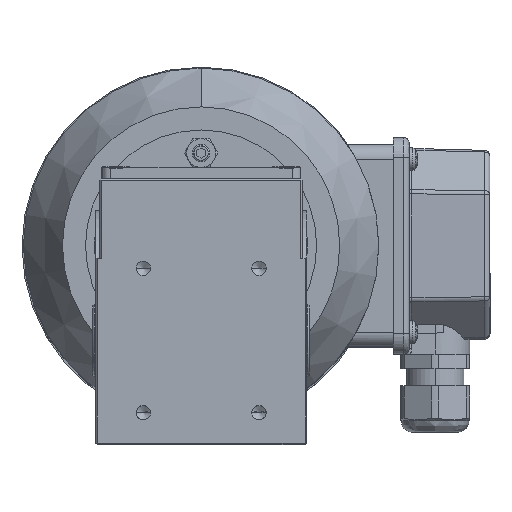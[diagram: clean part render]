
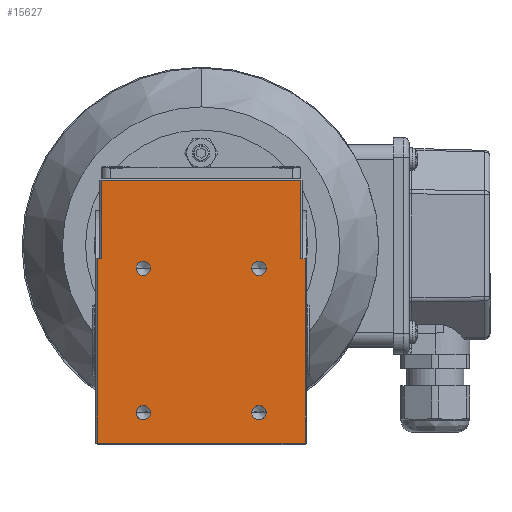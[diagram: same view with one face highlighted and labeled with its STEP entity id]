
A CAD part, top view. The second image highlights one B-rep face of the part: STEP entity #15627.
In plain terms, the highlighted planar face has unit normal (0, 0, 1).
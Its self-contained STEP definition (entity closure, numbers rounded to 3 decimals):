
#230 = DIRECTION ( 'NONE',  ( 0., 0., 1. ) ) ;
#274 = DIRECTION ( 'NONE',  ( 0., 1., 0. ) ) ;
#510 = ORIENTED_EDGE ( 'NONE', *, *, #23165, .T. ) ;
#694 = AXIS2_PLACEMENT_3D ( 'NONE', #23836, #18051, #274 ) ;
#698 = AXIS2_PLACEMENT_3D ( 'NONE', #6269, #1959, #17813 ) ;
#971 = DIRECTION ( 'NONE',  ( 1., 0., 0. ) ) ;
#1019 = EDGE_CURVE ( 'NONE', #3367, #23843, #24977, .T. ) ;
#1044 = CIRCLE ( 'NONE', #8932, 2.5 ) ;
#1171 = VECTOR ( 'NONE', #4159, 1000. ) ;
#1227 = ORIENTED_EDGE ( 'NONE', *, *, #1019, .F. ) ;
#1465 = EDGE_CURVE ( 'NONE', #19352, #5744, #19471, .T. ) ;
#1561 = EDGE_CURVE ( 'NONE', #12168, #13659, #13695, .T. ) ;
#1615 = LINE ( 'NONE', #7236, #21730 ) ;
#1751 = CIRCLE ( 'NONE', #22955, 2.5 ) ;
#1838 = ORIENTED_EDGE ( 'NONE', *, *, #21983, .T. ) ;
#1846 = EDGE_CURVE ( 'NONE', #15191, #17708, #10520, .T. ) ;
#1959 = DIRECTION ( 'NONE',  ( 0., 0., 1. ) ) ;
#2022 = EDGE_LOOP ( 'NONE', ( #14682, #3165, #1838, #6788, #14821, #510, #2553, #18091 ) ) ;
#2199 = DIRECTION ( 'NONE',  ( 0., 0., 1. ) ) ;
#2553 = ORIENTED_EDGE ( 'NONE', *, *, #7860, .T. ) ;
#2803 = ORIENTED_EDGE ( 'NONE', *, *, #1561, .F. ) ;
#2844 = CARTESIAN_POINT ( 'NONE',  ( 36., 56., 35. ) ) ;
#2969 = ORIENTED_EDGE ( 'NONE', *, *, #21768, .F. ) ;
#3119 = DIRECTION ( 'NONE',  ( 1., 0., 0. ) ) ;
#3165 = ORIENTED_EDGE ( 'NONE', *, *, #10866, .T. ) ;
#3367 = VERTEX_POINT ( 'NONE', #4068 ) ;
#3696 = DIRECTION ( 'NONE',  ( -1., 0., 0. ) ) ;
#4068 = CARTESIAN_POINT ( 'NONE',  ( 17.5, 25., 35. ) ) ;
#4159 = DIRECTION ( 'NONE',  ( 0., -1., 0. ) ) ;
#4325 = AXIS2_PLACEMENT_3D ( 'NONE', #21234, #23745, #5508 ) ;
#4364 = DIRECTION ( 'NONE',  ( 0., 0., 1. ) ) ;
#4444 = VERTEX_POINT ( 'NONE', #8299 ) ;
#4730 = EDGE_CURVE ( 'NONE', #14848, #21208, #1615, .T. ) ;
#4859 = CARTESIAN_POINT ( 'NONE',  ( 22.5, -25., 35. ) ) ;
#4879 = DIRECTION ( 'NONE',  ( 0., 0., 1. ) ) ;
#4951 = DIRECTION ( 'NONE',  ( 0., 1., 0. ) ) ;
#4957 = DIRECTION ( 'NONE',  ( -1., 0., 0. ) ) ;
#4973 = VECTOR ( 'NONE', #22361, 1000. ) ;
#5198 = CIRCLE ( 'NONE', #19724, 2.5 ) ;
#5508 = DIRECTION ( 'NONE',  ( 1., 0., 0. ) ) ;
#5744 = VERTEX_POINT ( 'NONE', #15141 ) ;
#6083 = CARTESIAN_POINT ( 'NONE',  ( 36., 28.284, 35. ) ) ;
#6135 = CARTESIAN_POINT ( 'NONE',  ( -36., 56., 35. ) ) ;
#6269 = CARTESIAN_POINT ( 'NONE',  ( -20., -25., 35. ) ) ;
#6466 = CARTESIAN_POINT ( 'NONE',  ( -36., 28.284, 35. ) ) ;
#6475 = EDGE_LOOP ( 'NONE', ( #16409, #1227 ) ) ;
#6788 = ORIENTED_EDGE ( 'NONE', *, *, #19903, .T. ) ;
#6826 = CIRCLE ( 'NONE', #4325, 2.5 ) ;
#7090 = VERTEX_POINT ( 'NONE', #4859 ) ;
#7151 = LINE ( 'NONE', #15174, #17584 ) ;
#7236 = CARTESIAN_POINT ( 'NONE',  ( 35., 28.284, 35. ) ) ;
#7535 = CARTESIAN_POINT ( 'NONE',  ( 34.5, 28.284, 35. ) ) ;
#7860 = EDGE_CURVE ( 'NONE', #8004, #15191, #22533, .T. ) ;
#7871 = EDGE_CURVE ( 'NONE', #23843, #3367, #5198, .T. ) ;
#7958 = FACE_BOUND ( 'NONE', #18055, .T. ) ;
#8004 = VERTEX_POINT ( 'NONE', #9911 ) ;
#8120 = EDGE_CURVE ( 'NONE', #7090, #18675, #1044, .T. ) ;
#8299 = CARTESIAN_POINT ( 'NONE',  ( 36., -35.5, 35. ) ) ;
#8862 = CARTESIAN_POINT ( 'NONE',  ( -42.5, 55.5, 35. ) ) ;
#8892 = EDGE_LOOP ( 'NONE', ( #25272, #20703 ) ) ;
#8932 = AXIS2_PLACEMENT_3D ( 'NONE', #23518, #25722, #21803 ) ;
#9040 = CARTESIAN_POINT ( 'NONE',  ( -20., -25., 35. ) ) ;
#9054 = EDGE_CURVE ( 'NONE', #13659, #12168, #13575, .T. ) ;
#9578 = CARTESIAN_POINT ( 'NONE',  ( -34.5, 55.5, 35. ) ) ;
#9911 = CARTESIAN_POINT ( 'NONE',  ( 34.5, 55.5, 35. ) ) ;
#10159 = FACE_BOUND ( 'NONE', #18458, .T. ) ;
#10237 = CARTESIAN_POINT ( 'NONE',  ( -20., 25., 35. ) ) ;
#10397 = AXIS2_PLACEMENT_3D ( 'NONE', #9040, #4879, #971 ) ;
#10520 = LINE ( 'NONE', #14412, #4973 ) ;
#10806 = DIRECTION ( 'NONE',  ( 0., 1., 0. ) ) ;
#10866 = EDGE_CURVE ( 'NONE', #12896, #18301, #17804, .T. ) ;
#11339 = VECTOR ( 'NONE', #10806, 1000. ) ;
#11468 = CARTESIAN_POINT ( 'NONE',  ( 20., 25., 35. ) ) ;
#11837 = FACE_BOUND ( 'NONE', #6475, .T. ) ;
#12168 = VERTEX_POINT ( 'NONE', #18601 ) ;
#12896 = VERTEX_POINT ( 'NONE', #6466 ) ;
#13004 = DIRECTION ( 'NONE',  ( 0., 0., 1. ) ) ;
#13575 = CIRCLE ( 'NONE', #698, 2.5 ) ;
#13581 = LINE ( 'NONE', #17853, #23376 ) ;
#13659 = VERTEX_POINT ( 'NONE', #22515 ) ;
#13695 = CIRCLE ( 'NONE', #10397, 2.5 ) ;
#14171 = EDGE_CURVE ( 'NONE', #12896, #17708, #13581, .T. ) ;
#14412 = CARTESIAN_POINT ( 'NONE',  ( -34.5, 56., 35. ) ) ;
#14682 = ORIENTED_EDGE ( 'NONE', *, *, #14171, .F. ) ;
#14821 = ORIENTED_EDGE ( 'NONE', *, *, #4730, .T. ) ;
#14834 = CARTESIAN_POINT ( 'NONE',  ( -36., -35.5, 35. ) ) ;
#14848 = VERTEX_POINT ( 'NONE', #6083 ) ;
#14857 = CARTESIAN_POINT ( 'NONE',  ( 22.5, 25., 35. ) ) ;
#15141 = CARTESIAN_POINT ( 'NONE',  ( -17.5, 25., 35. ) ) ;
#15154 = VECTOR ( 'NONE', #4957, 1000. ) ;
#15174 = CARTESIAN_POINT ( 'NONE',  ( -42.5, -35.5, 35. ) ) ;
#15191 = VERTEX_POINT ( 'NONE', #9578 ) ;
#15627 = ADVANCED_FACE ( 'NONE', ( #10159, #11837, #19885, #7958, #15851 ), #17925, .F. ) ;
#15851 = FACE_OUTER_BOUND ( 'NONE', #2022, .T. ) ;
#15905 = DIRECTION ( 'NONE',  ( 1., 0., 0. ) ) ;
#15931 = DIRECTION ( 'NONE',  ( 1., 0., 0. ) ) ;
#15989 = CARTESIAN_POINT ( 'NONE',  ( -20., 25., 35. ) ) ;
#16138 = CARTESIAN_POINT ( 'NONE',  ( -34.5, 28.284, 35. ) ) ;
#16409 = ORIENTED_EDGE ( 'NONE', *, *, #7871, .F. ) ;
#16634 = CARTESIAN_POINT ( 'NONE',  ( 34.5, 56., 35. ) ) ;
#17237 = DIRECTION ( 'NONE',  ( 1., 0., 0. ) ) ;
#17584 = VECTOR ( 'NONE', #17237, 1000. ) ;
#17635 = ORIENTED_EDGE ( 'NONE', *, *, #9054, .F. ) ;
#17669 = DIRECTION ( 'NONE',  ( 1., 0., 0. ) ) ;
#17708 = VERTEX_POINT ( 'NONE', #16138 ) ;
#17804 = LINE ( 'NONE', #6135, #1171 ) ;
#17813 = DIRECTION ( 'NONE',  ( 1., 0., 0. ) ) ;
#17853 = CARTESIAN_POINT ( 'NONE',  ( -35., 28.284, 35. ) ) ;
#17876 = CARTESIAN_POINT ( 'NONE',  ( 20., 25., 35. ) ) ;
#17925 = PLANE ( 'NONE',  #694 ) ;
#18051 = DIRECTION ( 'NONE',  ( 0., 0., -1. ) ) ;
#18055 = EDGE_LOOP ( 'NONE', ( #17635, #2803 ) ) ;
#18091 = ORIENTED_EDGE ( 'NONE', *, *, #1846, .T. ) ;
#18301 = VERTEX_POINT ( 'NONE', #14834 ) ;
#18458 = EDGE_LOOP ( 'NONE', ( #2969, #19912 ) ) ;
#18601 = CARTESIAN_POINT ( 'NONE',  ( -22.5, -25., 35. ) ) ;
#18675 = VERTEX_POINT ( 'NONE', #18789 ) ;
#18715 = LINE ( 'NONE', #16634, #23062 ) ;
#18789 = CARTESIAN_POINT ( 'NONE',  ( 17.5, -25., 35. ) ) ;
#19352 = VERTEX_POINT ( 'NONE', #23894 ) ;
#19471 = CIRCLE ( 'NONE', #19896, 2.5 ) ;
#19724 = AXIS2_PLACEMENT_3D ( 'NONE', #11468, #13004, #3119 ) ;
#19885 = FACE_BOUND ( 'NONE', #8892, .T. ) ;
#19896 = AXIS2_PLACEMENT_3D ( 'NONE', #10237, #230, #24176 ) ;
#19903 = EDGE_CURVE ( 'NONE', #4444, #14848, #22516, .T. ) ;
#19912 = ORIENTED_EDGE ( 'NONE', *, *, #1465, .F. ) ;
#20703 = ORIENTED_EDGE ( 'NONE', *, *, #22886, .F. ) ;
#21208 = VERTEX_POINT ( 'NONE', #7535 ) ;
#21234 = CARTESIAN_POINT ( 'NONE',  ( 20., -25., 35. ) ) ;
#21730 = VECTOR ( 'NONE', #3696, 1000. ) ;
#21768 = EDGE_CURVE ( 'NONE', #5744, #19352, #1751, .T. ) ;
#21803 = DIRECTION ( 'NONE',  ( 1., 0., 0. ) ) ;
#21983 = EDGE_CURVE ( 'NONE', #18301, #4444, #7151, .T. ) ;
#22361 = DIRECTION ( 'NONE',  ( 0., -1., 0. ) ) ;
#22515 = CARTESIAN_POINT ( 'NONE',  ( -17.5, -25., 35. ) ) ;
#22516 = LINE ( 'NONE', #2844, #11339 ) ;
#22533 = LINE ( 'NONE', #8862, #15154 ) ;
#22886 = EDGE_CURVE ( 'NONE', #18675, #7090, #6826, .T. ) ;
#22955 = AXIS2_PLACEMENT_3D ( 'NONE', #15989, #2199, #17669 ) ;
#23062 = VECTOR ( 'NONE', #4951, 1000. ) ;
#23165 = EDGE_CURVE ( 'NONE', #21208, #8004, #18715, .T. ) ;
#23376 = VECTOR ( 'NONE', #15905, 1000. ) ;
#23518 = CARTESIAN_POINT ( 'NONE',  ( 20., -25., 35. ) ) ;
#23735 = AXIS2_PLACEMENT_3D ( 'NONE', #17876, #4364, #15931 ) ;
#23745 = DIRECTION ( 'NONE',  ( 0., 0., 1. ) ) ;
#23836 = CARTESIAN_POINT ( 'NONE',  ( -42.5, 56., 35. ) ) ;
#23843 = VERTEX_POINT ( 'NONE', #14857 ) ;
#23894 = CARTESIAN_POINT ( 'NONE',  ( -22.5, 25., 35. ) ) ;
#24176 = DIRECTION ( 'NONE',  ( 1., 0., 0. ) ) ;
#24977 = CIRCLE ( 'NONE', #23735, 2.5 ) ;
#25272 = ORIENTED_EDGE ( 'NONE', *, *, #8120, .F. ) ;
#25722 = DIRECTION ( 'NONE',  ( 0., 0., 1. ) ) ;
